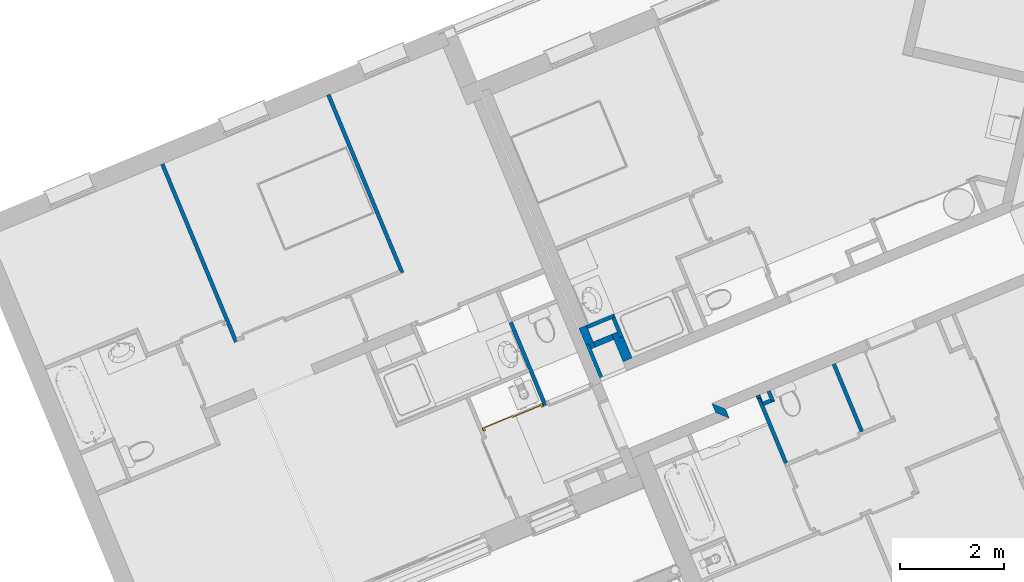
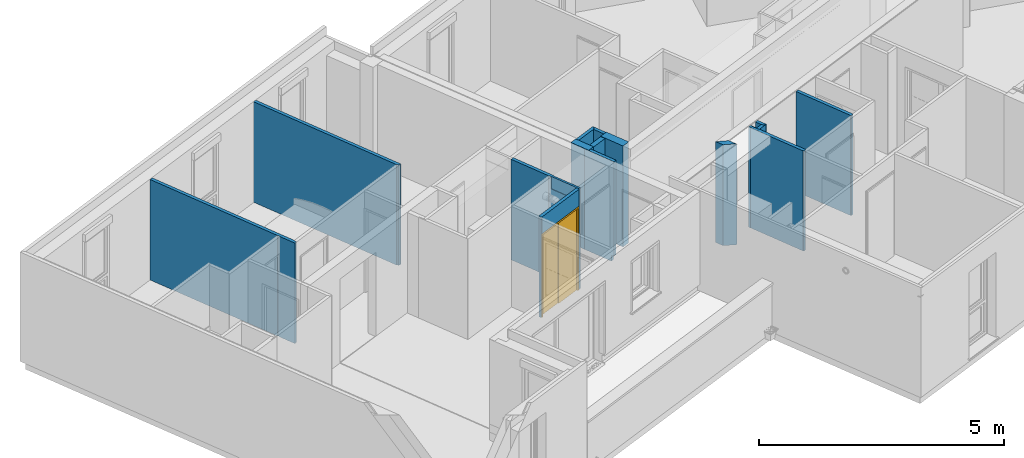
# One storey, part 37 of 91: 16 walls, 1 door, 1 opening.
"""IFC2X3 building model written with IfcOpenShell, lengths in metres."""

from ifc_helpers import new_model, entity, si_unit, converted_unit, derived_unit, money_unit, direction, frame, origin_with_axes, place, context, subcontext, project, spatial, faceted_brep, material, material_list, type_object, element, fill, save


model = new_model("IFC2X3")

# Units and contexts
model_context = context("Model", 3, precision=1e-05, world=origin_with_axes(), true_north=direction((0.0, 1.0)))
body_context = subcontext(model_context, "Body", "Model", "MODEL_VIEW")
ifc_project = project(units=[si_unit("LENGTHUNIT", "METRE"), si_unit("AREAUNIT", "SQUARE_METRE"), si_unit("VOLUMEUNIT", "CUBIC_METRE"), converted_unit("PLANEANGLEUNIT", "DEGREE", entity("IfcPlaneAngleMeasure", 0.0174532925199), si_unit("PLANEANGLEUNIT", "RADIAN"), dimensions=[0, 0, 0, 0, 0, 0, 0]), si_unit("SOLIDANGLEUNIT", "STERADIAN"), money_unit("EUR"), converted_unit("TIMEUNIT", "Year", entity("IfcTimeMeasure", 31556926.0), si_unit("TIMEUNIT", "SECOND"), dimensions=[0, 0, 1, 0, 0, 0, 0]), si_unit("MASSUNIT", "GRAM", prefix="KILO"), si_unit("THERMODYNAMICTEMPERATUREUNIT", "DEGREE_CELSIUS"), si_unit("LUMINOUSINTENSITYUNIT", "LUMEN"), si_unit("ENERGYUNIT", "JOULE", prefix="MEGA"), derived_unit("THERMALCONDUCTANCEUNIT", [(si_unit("POWERUNIT", "WATT"), 1), (si_unit("LENGTHUNIT", "METRE"), -1), (si_unit("THERMODYNAMICTEMPERATUREUNIT", "KELVIN"), -1)]), derived_unit("SPECIFICHEATCAPACITYUNIT", [(si_unit("ENERGYUNIT", "JOULE"), 1), (si_unit("MASSUNIT", "GRAM", prefix="KILO"), -1), (si_unit("THERMODYNAMICTEMPERATUREUNIT", "KELVIN"), -1)]), derived_unit("MASSDENSITYUNIT", [(si_unit("MASSUNIT", "GRAM", prefix="KILO"), 1), (si_unit("VOLUMEUNIT", "CUBIC_METRE"), -1)])], contexts=[model_context])

# Site, building, storey
site_placement = place(None, origin_with_axes())
site = spatial("IfcSite", under=ifc_project, at=site_placement, Name="Site", CompositionType="ELEMENT")
building_placement = place(site_placement, origin_with_axes())
building = spatial("IfcBuilding", under=site, at=building_placement, Name="Bâtiment", CompositionType="ELEMENT")
storey_placement = place(building_placement, frame((0.0, 0.0, 5.44), z_axis=(0.0, 0.0, 1.0), x_axis=(1.0, 0.0, 0.0)))
storey = spatial("IfcBuildingStorey", under=building, at=storey_placement, Name="R+2", CompositionType="ELEMENT", Elevation=5.44)

# Walls
ifc_material_1 = material(Name="Cloison - Carreaux de plâtre")
wall_type_1 = type_object("IfcWallType", Name="Cloison - Carreaux de plâtre 74", PredefinedType="USERDEFINED")
wall_1_placement = place(storey_placement, frame((-23.4020900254, -20.3401454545, 0.0), z_axis=(0.0, 0.0, 1.0), x_axis=(0.38311254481, -0.923701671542, 0.0)))
element("IfcWall", 1, at=wall_1_placement, inside=storey, type_object=wall_type_1, material=ifc_material_1, Name="Carreaux de plâtre 8cm", ObjectType="PARTITIONING", context=body_context, shape_type="Brep", body=[
    faceted_brep([(0.644635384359, 0.064, 2.5), (0.644635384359, -0.01, 2.5), (0.644635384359, -0.00999999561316, 0.15), (0.644635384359, 0.064, 0.15), (-0.111000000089, 0.064, 2.5), (-0.111000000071, -0.01, 2.5), (-0.111000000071, -0.01, 0.0), (0.580635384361, -0.00999999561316, 0.0), (0.580635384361, -0.00999999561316, 0.15), (0.580635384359, 0.0, 0.15), (0.580635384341, 0.064, 0.15), (0.580635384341, 0.064, 0.0), (-0.111000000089, 0.064, 0.0), (0.580635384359, 0.0, 0.0)], [[[0, 1, 2, 3]], [[0, 4, 5, 1]], [[6, 7, 8, 2, 1, 5]], [[8, 9, 10, 3, 2]], [[0, 3, 10, 11, 12, 4]], [[6, 5, 4, 12]], [[12, 11, 13, 7, 6]], [[9, 8, 7, 13]], [[9, 13, 11, 10]]]),
])
ifc_material_2 = material(Name="Finition int - Plaque de plâtre")
ifc_material_3 = material(Name="Isolation - Laine de roche")
ifc_material_list_1 = material_list([ifc_material_2, ifc_material_3, ifc_material_2])
wall_type_2 = type_object("IfcWallType", Name="3 - Cloison 72mm Placostil 74", PredefinedType="USERDEFINED")
wall_2_placement = place(storey_placement, frame((-24.2641360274, -21.4304952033, 0.0), z_axis=(0.0, 0.0, 1.0), x_axis=(-0.383112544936, 0.92370167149, 0.0)))
element("IfcWall", 2, at=wall_2_placement, inside=storey, type_object=wall_type_2, material=ifc_material_list_1, Name="Cloison Placostil 72/48", ObjectType="PARTITIONING", context=body_context, shape_type="Brep", body=[
    faceted_brep([(0.718810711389, -0.013, 2.2), (0.0739999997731, -0.013, 2.2), (0.0739999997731, -0.013, 2.5), (0.0609999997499, -0.013, 2.5), (0.0609999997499, -0.013, 0.0), (0.731810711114, -0.013, 0.0), (0.731810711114, -0.013, 2.5), (0.718810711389, -0.013, 2.5), (0.718810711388, 0.0, 2.2), (0.0739999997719, 0.0, 2.2), (0.0739999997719, 0.0, 2.5), (0.0609999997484, 0.0, 2.5), (0.0609999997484, 0.0, 0.0), (0.731810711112, 0.0, 0.0), (0.731810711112, 0.0, 2.5), (0.718810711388, 0.0, 2.5)], [[[0, 1, 2, 3, 4, 5, 6, 7]], [[1, 0, 8, 9]], [[10, 2, 1, 9]], [[2, 10, 11, 3]], [[12, 4, 3, 11]], [[5, 4, 12, 13]], [[13, 14, 6, 5]], [[15, 7, 6, 14]], [[0, 7, 15, 8]], [[8, 15, 14, 13, 12, 11, 10, 9]]]),
    faceted_brep([(-2.50066634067e-10, -0.013, 0.0), (0.0129999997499, -0.013, 0.0), (0.0129999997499, -0.013, 2.5), (-2.50066634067e-10, -0.013, 2.5), (-2.5164403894e-10, 0.0, 0.0), (0.0129999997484, 0.0, 0.0), (0.0129999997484, 0.0, 2.5), (-2.5164403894e-10, 0.0, 2.5)], [[[0, 1, 2, 3]], [[4, 5, 1, 0]], [[5, 6, 2, 1]], [[3, 2, 6, 7]], [[4, 0, 3, 7]], [[7, 6, 5, 4]]]),
    faceted_brep([(0.779810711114, -0.013, 2.5), (1.74617411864, -0.013, 2.5), (1.74617411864, 0.0, 2.5), (0.779810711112, 0.0, 2.5), (0.779810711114, -0.013, 0.0), (1.74617411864, -0.013, 0.0), (1.74617411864, 0.0, 0.0), (0.779810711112, 0.0, 0.0)], [[[0, 1, 2, 3]], [[4, 5, 1, 0]], [[2, 1, 5, 6]], [[3, 2, 6, 7]], [[4, 0, 3, 7]], [[7, 6, 5, 4]]]),
    faceted_brep([(0.0129999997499, -0.013, 2.5), (0.0129999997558, -0.061, 2.5), (1.74617411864, -0.061, 2.5), (1.74617411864, -0.013, 2.5), (0.0129999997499, -0.013, 0.0), (0.0129999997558, -0.061, 0.0), (1.74617411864, -0.061, 0.0), (1.74617411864, -0.013, 0.0)], [[[0, 1, 2, 3]], [[4, 5, 1, 0]], [[1, 5, 6, 2]], [[7, 3, 2, 6]], [[4, 0, 3, 7]], [[5, 4, 7, 6]]]),
    faceted_brep([(0.718810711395, -0.074, 2.2), (0.0739999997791, -0.074, 2.2), (0.0739999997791, -0.074, 2.5), (0.0609999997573, -0.074, 2.5), (0.0609999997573, -0.074, 0.0), (1.74617411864, -0.074, 0.0), (1.74617411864, -0.074, 2.5), (0.718810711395, -0.074, 2.5), (0.718810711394, -0.061, 2.2), (0.0739999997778, -0.061, 2.2), (0.0739999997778, -0.061, 2.5), (0.0609999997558, -0.061, 2.5), (0.0609999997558, -0.061, 0.0), (1.74617411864, -0.061, 0.0), (1.74617411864, -0.061, 2.5), (0.718810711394, -0.061, 2.5)], [[[0, 1, 2, 3, 4, 5, 6, 7]], [[1, 0, 8, 9]], [[10, 2, 1, 9]], [[2, 10, 11, 3]], [[4, 3, 11, 12]], [[12, 13, 5, 4]], [[14, 6, 5, 13]], [[15, 7, 6, 14]], [[0, 7, 15, 8]], [[8, 15, 14, 13, 12, 11, 10, 9]]]),
])
wall_3_placement = place(storey_placement, frame((-20.0063506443, -21.4094138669, 0.0), z_axis=(0.0, 0.0, 1.0), x_axis=(0.383112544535, -0.923701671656, 0.0)))
element("IfcWall", 3, at=wall_3_placement, inside=storey, type_object=wall_type_2, material=ifc_material_list_1, Name="Cloison Placostil 72/48", ObjectType="PARTITIONING", context=body_context, shape_type="Brep", body=[
    faceted_brep([(0.0, 0.0, 2.49), (1.17600000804, 0.0, 2.49), (1.17600000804, 0.0, 0.0), (0.0, 0.0, 0.0), (1.17600000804, -0.013, 2.49), (0.0, -0.013, 2.49), (1.17600000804, -0.013, 0.0), (0.0, -0.013, 0.0)], [[[0, 1, 2, 3]], [[4, 1, 0, 5]], [[1, 4, 6, 2]], [[6, 7, 3, 2]], [[5, 0, 3, 7]], [[4, 5, 7, 6]]]),
    faceted_brep([(-0.174, -0.013, 2.49), (1.18900000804, -0.013, 2.49), (1.18900000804, -0.013, 0.0), (-0.174, -0.013, 0.0), (1.18900000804, -0.060999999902, 2.49), (-0.174, -0.061, 2.49), (1.18900000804, -0.060999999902, 0.0), (-0.174, -0.061, 0.0)], [[[0, 1, 2, 3]], [[4, 1, 0, 5]], [[1, 4, 6, 2]], [[3, 2, 6, 7]], [[5, 0, 3, 7]], [[4, 5, 7, 6]]]),
    faceted_brep([(-0.174, -0.061, 2.49), (1.17600000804, -0.061, 2.49), (1.17600000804, -0.061, 0.0), (-0.174, -0.061, 0.0), (1.17600000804, -0.0739999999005, 2.49), (-0.174, -0.074, 2.49), (1.17600000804, -0.0739999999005, 0.0), (-0.174, -0.074, 0.0)], [[[0, 1, 2, 3]], [[4, 1, 0, 5]], [[1, 4, 6, 2]], [[3, 2, 6, 7]], [[5, 0, 3, 7]], [[4, 5, 7, 6]]]),
])

# Wall, opening, door
wall_4_placement = place(storey_placement, frame((-24.2641360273, -21.4304952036, 0.0), z_axis=(0.0, 0.0, 1.0), x_axis=(-0.923701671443, -0.383112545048, 0.0)))
wall_4 = element("IfcWall", 4, at=wall_4_placement, inside=storey, type_object=wall_type_2, material=ifc_material_list_1, Name="Cloison Placostil 72/48", ObjectType="PARTITIONING", context=body_context, shape_type="Brep", body=[
    faceted_brep([(1.24999999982, 0.0, 2.08), (0.0, 0.0, 2.08), (0.0, 0.0, 2.5), (1.24999999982, 0.0, 2.5), (0.0, -0.013, 2.08), (1.24999999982, -0.013, 2.08), (0.0, -0.013, 2.5), (1.24999999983, -0.013, 2.5)], [[[0, 1, 2, 3]], [[4, 1, 0, 5]], [[1, 4, 6, 2]], [[2, 6, 7, 3]], [[5, 0, 3, 7]], [[4, 5, 7, 6]]]),
    faceted_brep([(1.24999999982, -0.013, 0.0), (1.24999999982, -0.013, 2.08), (0.0, -0.013, 2.08), (0.0, -0.013, 0.0), (-0.0130000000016, -0.013, 0.0), (-0.0130000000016, -0.013, 2.5), (1.26299999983, -0.013, 2.5), (1.26299999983, -0.013, 0.0), (1.24999999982, -0.061, 0.0), (1.24999999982, -0.061, 2.08), (0.0, -0.061, 2.08), (0.0, -0.061, 0.0), (-0.0130000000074, -0.061, 0.0), (-0.0130000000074, -0.061, 2.5), (1.26299999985, -0.061, 2.5), (1.26299999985, -0.061, 0.0)], [[[0, 1, 2, 3, 4, 5, 6, 7]], [[1, 0, 8, 9]], [[2, 1, 9, 10]], [[3, 2, 10, 11]], [[3, 11, 12, 4]], [[13, 5, 4, 12]], [[5, 13, 14, 6]], [[7, 6, 14, 15]], [[8, 0, 7, 15]], [[9, 8, 15, 14, 13, 12, 11, 10]]]),
    faceted_brep([(1.24999999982, -0.061, 2.08), (0.0, -0.061, 2.08), (0.0, -0.061, 2.5), (1.24999999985, -0.061, 2.5), (0.0, -0.074, 2.08), (1.24999999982, -0.074, 2.08), (0.0, -0.074, 2.5), (1.24999999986, -0.074, 2.5)], [[[0, 1, 2, 3]], [[4, 1, 0, 5]], [[1, 4, 6, 2]], [[2, 6, 7, 3]], [[5, 0, 3, 7]], [[4, 5, 7, 6]]]),
])
opening_placement = place(wall_4_placement, frame((0.62499999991, 0.0, 0.0), z_axis=(0.0, 0.0, 1.0), x_axis=(1.0, 0.0, 0.0)))
opening = element("IfcOpeningElement", 5, at=opening_placement, cuts=wall_4, Name="Por-002", context=body_context, shape_type="Brep", body=[
    faceted_brep([(0.62499999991, -0.074, 0.0), (-0.62499999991, -0.074, 0.0), (-0.62499999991, 0.074, 0.0), (0.62499999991, 0.074, 0.0), (0.62499999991, -0.074, 2.08), (-0.62499999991, -0.074, 2.08), (-0.62499999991, 0.074, 2.08), (0.62499999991, 0.074, 2.08)], [[[0, 1, 2, 3]], [[0, 4, 5, 1]], [[1, 5, 6, 2]], [[3, 2, 6, 7]], [[4, 0, 3, 7]], [[5, 4, 7, 6]]]),
])
door_style = type_object("IfcDoorStyle", Name="Porte int générique 2019", ConstructionType="NOTDEFINED", OperationType="USERDEFINED", ParameterTakesPrecedence=False, Sizeable=False)
door_placement = place(opening_placement, frame((0.58499999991, 0.0, 0.0), z_axis=(0.0, 0.0, 1.0), x_axis=(-1.0, 0.0, 0.0)))
door = element("IfcDoor", 6, at=door_placement, inside=storey, type_object=door_style, Name="Por-002", ObjectType="DOOR", OverallHeight=2.04, OverallWidth=1.17, context=body_context, shape_type="Brep", body=[
    faceted_brep([(-0.04, 0.074, 0.0), (-0.04, 0.074, 2.08), (1.20999999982, 0.074, 2.08), (1.20999999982, 0.074, 0.0), (1.16999999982, 0.074, 0.0), (1.16999999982, 0.074, 2.04), (0.0, 0.074, 2.04), (0.0, 0.074, 0.0), (-0.04, 0.0, 0.0), (-0.04, 0.0, 2.08), (1.20999999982, 0.0, 2.08), (1.20999999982, 0.0, 0.0), (1.16999999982, 0.0, 0.0), (1.16999999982, 0.0, 2.04), (0.0, 0.0, 2.04), (0.0, 0.0, 0.0)], [[[0, 1, 2, 3, 4, 5, 6, 7]], [[8, 9, 1, 0]], [[9, 10, 2, 1]], [[10, 11, 3, 2]], [[3, 11, 12, 4]], [[5, 4, 12, 13]], [[6, 5, 13, 14]], [[7, 6, 14, 15]], [[0, 7, 15, 8]], [[15, 14, 13, 12, 11, 10, 9, 8]]]),
    faceted_brep([(0.0, 0.074, 0.0), (0.59999999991, 0.074, 0.0), (0.59999999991, 0.054, 0.0), (0.0, 0.054, 0.0), (0.0, 0.074, 2.04), (0.59999999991, 0.074, 2.04), (0.59999999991, 0.054, 2.04), (0.0, 0.054, 2.04)], [[[0, 1, 2, 3]], [[0, 4, 5, 1]], [[1, 5, 6, 2]], [[3, 2, 6, 7]], [[4, 0, 3, 7]], [[5, 4, 7, 6]]]),
    faceted_brep([(0.56999999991, 0.054, 0.0), (1.16999999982, 0.054, 0.0), (1.16999999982, 0.034, 0.0), (0.56999999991, 0.034, 0.0), (0.56999999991, 0.054, 2.04), (1.16999999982, 0.054, 2.04), (1.16999999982, 0.034, 2.04), (0.56999999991, 0.034, 2.04)], [[[0, 1, 2, 3]], [[0, 4, 5, 1]], [[1, 5, 6, 2]], [[3, 2, 6, 7]], [[4, 0, 3, 7]], [[5, 4, 7, 6]]]),
])
fill(opening, door)

# Walls
wall_5_placement = place(storey_placement, frame((-31.5930386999, -16.7328686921, 0.0), z_axis=(0.0, 0.0, 1.0), x_axis=(0.383112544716, -0.923701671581, 0.0)))
element("IfcWall", 7, at=wall_5_placement, inside=storey, type_object=wall_type_2, material=ifc_material_list_1, Name="Cloison Placostil 72/48", ObjectType="PARTITIONING", context=body_context, shape_type="Brep", body=[
    faceted_brep([(3.66082590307, -0.013, 2.5), (3.66082590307, 0.0, 2.5), (0.0, 0.0, 2.5), (0.0, -0.013, 2.5), (3.66082590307, -0.013, 0.0), (3.66082590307, 0.0, 0.0), (0.0, 0.0, 0.0), (0.0, -0.013, 0.0)], [[[0, 1, 2, 3]], [[1, 0, 4, 5]], [[1, 5, 6, 2]], [[7, 3, 2, 6]], [[4, 0, 3, 7]], [[5, 4, 7, 6]]]),
    faceted_brep([(3.70882590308, -0.061, 2.5), (3.70882590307, -0.013, 2.5), (0.0, -0.013, 2.5), (0.0, -0.061, 2.5), (3.70882590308, -0.061, 0.0), (3.70882590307, -0.013, 0.0), (0.0, -0.013, 0.0), (0.0, -0.061, 0.0)], [[[0, 1, 2, 3]], [[1, 0, 4, 5]], [[1, 5, 6, 2]], [[7, 3, 2, 6]], [[4, 0, 3, 7]], [[5, 4, 7, 6]]]),
    faceted_brep([(3.27404016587, -0.074, 2.5), (3.27404016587, -0.061, 2.5), (0.0, -0.061, 2.5), (0.0, -0.074, 2.5), (3.27404016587, -0.074, 0.0), (3.27404016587, -0.061, 0.0), (0.0, -0.061, 0.0), (0.0, -0.074, 0.0)], [[[0, 1, 2, 3]], [[1, 0, 4, 5]], [[1, 5, 6, 2]], [[7, 3, 2, 6]], [[4, 0, 3, 7]], [[5, 4, 7, 6]]]),
    faceted_brep([(3.72182590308, -0.074, 2.5), (3.72182590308, -0.061, 2.5), (3.32204016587, -0.061, 2.5), (3.32204016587, -0.074, 2.5), (3.72182590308, -0.074, 0.0), (3.72182590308, -0.061, 0.0), (3.32204016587, -0.061, 0.0), (3.32204016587, -0.074, 0.0)], [[[0, 1, 2, 3]], [[1, 0, 4, 5]], [[1, 5, 6, 2]], [[7, 3, 2, 6]], [[4, 0, 3, 7]], [[5, 4, 7, 6]]]),
])
wall_6_placement = place(storey_placement, frame((-28.456284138, -15.4210490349, 0.0), z_axis=(0.0, 0.0, 1.0), x_axis=(0.383112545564, -0.923701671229, 0.0)))
element("IfcWall", 8, at=wall_6_placement, inside=storey, type_object=wall_type_2, material=ifc_material_list_1, Name="Cloison Placostil 72/48", ObjectType="PARTITIONING", context=body_context, shape_type="Brep", body=[
    faceted_brep([(3.73182589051, 0.074, 0.0), (3.7318258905, 0.061, 0.0), (0.0, 0.061, 0.0), (0.0, 0.074, 0.0), (3.73182589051, 0.074, 2.5), (3.7318258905, 0.061, 2.5), (0.0, 0.061, 2.5), (0.0, 0.074, 2.5)], [[[0, 1, 2, 3]], [[1, 0, 4, 5]], [[1, 5, 6, 2]], [[7, 3, 2, 6]], [[4, 0, 3, 7]], [[5, 4, 7, 6]]]),
    faceted_brep([(3.7188258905, 0.061, 0.0), (3.71882589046, 0.013, 0.0), (0.0, 0.013, 0.0), (0.0, 0.061, 0.0), (3.7188258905, 0.061, 2.5), (3.71882589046, 0.013, 2.5), (0.0, 0.013, 2.5), (0.0, 0.061, 2.5)], [[[0, 1, 2, 3]], [[1, 0, 4, 5]], [[1, 5, 6, 2]], [[7, 3, 2, 6]], [[4, 0, 3, 7]], [[5, 4, 7, 6]]]),
    faceted_brep([(3.67082589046, 0.013, 0.0), (3.67082589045, 0.0, 0.0), (0.0, 0.0, 0.0), (0.0, 0.013, 0.0), (3.67082589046, 0.013, 2.5), (3.67082589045, 0.0, 2.5), (0.0, 0.0, 2.5), (0.0, 0.013, 2.5)], [[[0, 1, 2, 3]], [[1, 0, 4, 5]], [[1, 5, 6, 2]], [[7, 3, 2, 6]], [[4, 0, 3, 7]], [[5, 4, 7, 6]]]),
])
wall_7_placement = place(storey_placement, frame((-18.0615454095, -21.9560413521, 0.0), z_axis=(0.0, 0.0, 1.0), x_axis=(-0.383112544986, 0.923701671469, 0.0)))
element("IfcWall", 9, at=wall_7_placement, inside=storey, type_object=wall_type_2, material=ifc_material_list_1, Name="Cloison Placostil 72/48", ObjectType="PARTITIONING", context=body_context, shape_type="Brep", body=[
    faceted_brep([(1.47400000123, 0.061, 2.49), (0.0739999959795, 0.061, 2.49), (0.0739999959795, 0.061, 0.0), (1.47400000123, 0.061, 0.0), (0.0739999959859, 0.074, 2.49), (1.47400000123, 0.074, 2.49), (0.0739999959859, 0.074, 0.0), (1.47400000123, 0.074, 0.0)], [[[0, 1, 2, 3]], [[4, 1, 0, 5]], [[1, 4, 6, 2]], [[6, 7, 3, 2]], [[5, 0, 3, 7]], [[4, 5, 7, 6]]]),
    faceted_brep([(1.47400000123, 0.013, 2.49), (0.0609999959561, 0.013, 2.49), (0.0609999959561, 0.013, 0.0), (1.47400000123, 0.013, 0.0), (0.0609999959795, 0.061, 2.49), (1.47400000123, 0.061, 2.49), (0.0609999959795, 0.061, 0.0), (1.47400000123, 0.061, 0.0)], [[[0, 1, 2, 3]], [[4, 1, 0, 5]], [[1, 4, 6, 2]], [[6, 7, 3, 2]], [[5, 0, 3, 7]], [[4, 5, 7, 6]]]),
    faceted_brep([(1.47400000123, 0.0, 2.49), (0.0739999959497, 0.0, 2.49), (0.0739999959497, 0.0, 0.0), (1.47400000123, 0.0, 0.0), (0.0739999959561, 0.013, 2.49), (1.47400000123, 0.013, 2.49), (0.0739999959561, 0.013, 0.0), (1.47400000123, 0.013, 0.0)], [[[0, 1, 2, 3]], [[4, 1, 0, 5]], [[1, 4, 6, 2]], [[6, 7, 3, 2]], [[5, 0, 3, 7]], [[4, 5, 7, 6]]]),
])
ifc_material_4 = material(Name="Finition int - Enduit plâtre")
ifc_material_5 = material(Name="Béton")
ifc_material_list_2 = material_list([ifc_material_4, ifc_material_5, ifc_material_4])
wall_type_3 = type_object("IfcWallType", Name="2 - Murs Béton 18 + Enduit 2 Faces 200", PredefinedType="USERDEFINED")
wall_8_placement = place(storey_placement, frame((-20.9299652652, -21.5499877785, 0.0), z_axis=(0.0, 0.0, 1.0), x_axis=(-0.38311254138, 0.923701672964, 0.0)))
element("IfcWall", 10, at=wall_8_placement, inside=storey, type_object=wall_type_3, material=ifc_material_list_2, Name="M_Ext-008", ObjectType="SOLIDWALL", context=body_context, shape_type="Brep", body=[
    faceted_brep([(0.0, 0.0, 0.0), (0.190000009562, 0.0, 0.0), (0.190000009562, 0.0, 2.51), (0.0, 0.0, 2.51), (0.200000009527, 0.00999999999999, 0.0), (0.0100000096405, 0.0100000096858, 0.0), (0.200000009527, 0.0100000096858, 2.51), (0.0100000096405, 0.0100000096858, 2.51)], [[[0, 1, 2, 3]], [[4, 1, 0, 5]], [[4, 6, 2, 1]], [[3, 2, 6, 7]], [[5, 0, 3, 7]], [[4, 5, 7, 6]]]),
    faceted_brep([(-0.179999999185, -0.18, 0.0), (0.0100000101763, -0.18, 0.0), (0.0100000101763, -0.18, 2.51), (-0.179999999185, -0.18, 2.51), (0.0, 0.0, 0.0), (0.190000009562, 0.0, 0.0), (0.190000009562, 0.0, 2.51), (0.0, 0.0, 2.51)], [[[0, 1, 2, 3]], [[4, 5, 1, 0]], [[5, 6, 2, 1]], [[3, 2, 6, 7]], [[4, 0, 3, 7]], [[7, 6, 5, 4]]]),
    faceted_brep([(1.0210484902e-08, -0.19, 2.49), (-0.18999999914, -0.19, 2.49), (-0.18999999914, -0.19, 0.0), (1.0210484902e-08, -0.19, 0.0), (-0.180000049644, -0.17999996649, 2.49), (0.00997409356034, -0.180025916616, 2.49), (-0.179999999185, -0.18, 0.0), (0.0100000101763, -0.18, 0.0), (0.0100000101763, -0.18, 2.51), (0.00997409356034, -0.180025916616, 2.51), (-0.180000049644, -0.17999996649, 2.51)], [[[0, 1, 2, 3]], [[4, 1, 0, 5]], [[1, 4, 6, 2]], [[6, 7, 3, 2]], [[5, 0, 3, 7, 8, 9]], [[9, 10, 4, 5]], [[4, 10, 8, 7, 6]], [[10, 9, 8]]]),
])
wall_type_4 = type_object("IfcWallType", Name="3 - Cloison Gaine Technique 72mm 74", PredefinedType="USERDEFINED")
wall_9_placement = place(storey_placement, frame((-19.7994086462, -21.323583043, 0.0), z_axis=(0.0, 0.0, 1.0), x_axis=(-0.923701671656, -0.383112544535, 0.0)))
element("IfcWall", 11, at=wall_9_placement, inside=storey, type_object=wall_type_4, material=ifc_material_list_1, Name="Cloison Placostil 72/48", ObjectType="PARTITIONING", context=body_context, shape_type="Brep", body=[
    faceted_brep([(0.013, -0.013, 2.49), (0.013, 0.0, 2.49), (0.013, 0.0, 0.0), (0.013, -0.013, 0.0), (0.237035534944, 0.0, 2.49), (0.237035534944, -0.013, 2.49), (0.237035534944, 0.0, 0.0), (0.237035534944, -0.013, 0.0)], [[[0, 1, 2, 3]], [[4, 1, 0, 5]], [[1, 4, 6, 2]], [[2, 6, 7, 3]], [[5, 0, 3, 7]], [[4, 5, 7, 6]]]),
    faceted_brep([(0.061, -0.061, 2.49), (0.061, -0.013, 2.49), (0.061, -0.013, 0.0), (0.061, -0.061, 0.0), (0.237035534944, -0.013, 2.49), (0.237035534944, -0.061, 2.49), (0.237035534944, -0.013, 0.0), (0.237035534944, -0.061, 0.0)], [[[0, 1, 2, 3]], [[4, 1, 0, 5]], [[1, 4, 6, 2]], [[2, 6, 7, 3]], [[5, 0, 3, 7]], [[4, 5, 7, 6]]]),
    faceted_brep([(0.074, -0.074, 2.49), (0.074, -0.061, 2.49), (0.074, -0.061, 0.0), (0.074, -0.074, 0.0), (0.224035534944, -0.061, 2.49), (0.224035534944, -0.074, 2.49), (0.224035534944, -0.061, 0.0), (0.224035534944, -0.074, 0.0)], [[[0, 1, 2, 3]], [[4, 1, 0, 5]], [[1, 4, 6, 2]], [[2, 6, 7, 3]], [[5, 0, 3, 7]], [[4, 5, 7, 6]]]),
])
wall_10_placement = place(storey_placement, frame((-23.5869322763, -19.9205844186, 0.0), z_axis=(0.0, 0.0, 1.0), x_axis=(0.923701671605, 0.383112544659, 0.0)))
element("IfcWall", 12, at=wall_10_placement, inside=storey, type_object=wall_type_4, material=ifc_material_list_1, Name="Cloison Placostil 72/48", ObjectType="PARTITIONING", context=body_context, shape_type="Brep", body=[
    faceted_brep([(0.735366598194, 0.0, 2.5), (0.16, -2.14747331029e-10, 2.5), (0.160000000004, -0.013, 2.5), (0.735366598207, -0.013, 2.5), (0.735366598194, 0.0, 0.0), (0.16, -2.14747331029e-10, 0.0), (0.160000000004, -0.013, 0.0), (0.735366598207, -0.013, 0.0)], [[[0, 1, 2, 3]], [[4, 5, 1, 0]], [[5, 6, 2, 1]], [[3, 2, 6, 7]], [[4, 0, 3, 7]], [[7, 6, 5, 4]]]),
    faceted_brep([(0.722366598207, -0.013, 2.5), (0.160000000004, -0.013, 2.5), (0.16000000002, -0.061, 2.5), (0.722366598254, -0.061, 2.5), (0.722366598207, -0.013, 0.0), (0.160000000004, -0.013, 0.0), (0.16000000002, -0.061, 0.0), (0.722366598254, -0.061, 0.0)], [[[0, 1, 2, 3]], [[4, 5, 1, 0]], [[5, 6, 2, 1]], [[3, 2, 6, 7]], [[4, 0, 3, 7]], [[7, 6, 5, 4]]]),
    faceted_brep([(0.674366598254, -0.061, 2.5), (0.16000000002, -0.061, 2.5), (0.160000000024, -0.074, 2.5), (0.674366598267, -0.074, 2.5), (0.674366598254, -0.061, 0.0), (0.16000000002, -0.061, 0.0), (0.160000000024, -0.074, 0.0), (0.674366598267, -0.074, 0.0)], [[[0, 1, 2, 3]], [[4, 5, 1, 0]], [[5, 6, 2, 1]], [[3, 2, 6, 7]], [[4, 0, 3, 7]], [[7, 6, 5, 4]]]),
])
wall_11_placement = place(storey_placement, frame((-20.0921678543, -21.2025046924, 0.0), z_axis=(0.0, 0.0, 1.0), x_axis=(0.383112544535, -0.923701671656, 0.0)))
element("IfcWall", 13, at=wall_11_placement, inside=storey, type_object=wall_type_4, material=ifc_material_list_1, Name="Cloison Placostil 72/48", ObjectType="PARTITIONING", context=body_context, shape_type="Brep", body=[
    faceted_brep([(0.0, 0.0, 2.49), (0.163, 0.0, 2.49), (0.163, 0.0, 0.0), (0.0, 0.0, 0.0), (0.163, -0.013, 2.49), (0.0, -0.013, 2.49), (0.163, -0.013, 0.0), (0.0, -0.013, 0.0)], [[[0, 1, 2, 3]], [[4, 1, 0, 5]], [[1, 4, 6, 2]], [[3, 2, 6, 7]], [[5, 0, 3, 7]], [[4, 5, 7, 6]]]),
    faceted_brep([(0.0, -0.013, 2.49), (0.05, -0.013, 2.49), (0.05, -0.013, 0.0), (0.0, -0.013, 0.0), (0.05, -0.061, 2.49), (0.0, -0.061, 2.49), (0.05, -0.061, 0.0), (0.0, -0.061, 0.0)], [[[0, 1, 2, 3]], [[4, 1, 0, 5]], [[1, 4, 6, 2]], [[3, 2, 6, 7]], [[5, 0, 3, 7]], [[4, 5, 7, 6]]]),
    faceted_brep([(0.0, -0.061, 2.49), (0.05, -0.061, 2.49), (0.05, -0.061, 0.0), (0.0, -0.061, 0.0), (0.05, -0.074, 2.49), (0.0, -0.074, 2.49), (0.05, -0.074, 0.0), (0.0, -0.074, 0.0)], [[[0, 1, 2, 3]], [[4, 1, 0, 5]], [[1, 4, 6, 2]], [[3, 2, 6, 7]], [[5, 0, 3, 7]], [[4, 5, 7, 6]]]),
])
wall_12_placement = place(storey_placement, frame((-19.8852258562, -21.1166738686, 0.0), z_axis=(0.0, 0.0, 1.0), x_axis=(0.383112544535, -0.923701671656, 0.0)))
element("IfcWall", 14, at=wall_12_placement, inside=storey, type_object=wall_type_4, material=ifc_material_list_1, Name="Cloison Placostil 72/48", ObjectType="PARTITIONING", context=body_context, shape_type="Brep", body=[
    faceted_brep([(0.0, 0.0, 2.49), (0.224, 0.0, 2.49), (0.224, 0.0, 0.0), (0.0, 0.0, 0.0), (0.224, -0.013, 2.49), (0.0, -0.013, 2.49), (0.224, -0.013, 0.0), (0.0, -0.013, 0.0)], [[[0, 1, 2, 3]], [[4, 1, 0, 5]], [[1, 4, 6, 2]], [[2, 6, 7, 3]], [[5, 0, 3, 7]], [[4, 5, 7, 6]]]),
    faceted_brep([(0.0, -0.013, 2.49), (0.211, -0.013, 2.49), (0.211, -0.013, 0.0), (0.0, -0.013, 0.0), (0.211, -0.061, 2.49), (0.0, -0.061, 2.49), (0.211, -0.061, 0.0), (0.0, -0.061, 0.0)], [[[0, 1, 2, 3]], [[4, 1, 0, 5]], [[1, 4, 6, 2]], [[2, 6, 7, 3]], [[5, 0, 3, 7]], [[4, 5, 7, 6]]]),
    faceted_brep([(0.0, -0.061, 2.49), (0.163, -0.061, 2.49), (0.163, -0.061, 0.0), (0.0, -0.061, 0.0), (0.163, -0.074, 2.49), (0.0, -0.074, 2.49), (0.163, -0.074, 0.0), (0.0, -0.074, 0.0)], [[[0, 1, 2, 3]], [[4, 1, 0, 5]], [[1, 4, 6, 2]], [[2, 6, 7, 3]], [[5, 0, 3, 7]], [[4, 5, 7, 6]]]),
])
wall_13_placement = place(storey_placement, frame((-22.9076729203, -19.6388562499, 0.0), z_axis=(0.0, 0.0, 1.0), x_axis=(0.383112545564, -0.923701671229, 0.0)))
element("IfcWall", 15, at=wall_13_placement, inside=storey, type_object=wall_type_4, material=ifc_material_list_1, Name="Cloison Placostil 72/48", ObjectType="PARTITIONING", context=body_context, shape_type="Brep", body=[
    faceted_brep([(0.0129999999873, -0.013, 2.5), (0.472999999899, -0.013, 2.5), (0.472999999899, 0.0, 2.5), (0.013, 0.0, 2.5), (0.0129999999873, -0.013, 0.0), (0.472999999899, -0.013, 0.0), (0.472999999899, 0.0, 0.0), (0.013, 0.0, 0.0)], [[[0, 1, 2, 3]], [[4, 5, 1, 0]], [[2, 1, 5, 6]], [[3, 2, 6, 7]], [[4, 0, 3, 7]], [[7, 6, 5, 4]]]),
    faceted_brep([(0.0609999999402, -0.061, 2.5), (0.472999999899, -0.061, 2.5), (0.472999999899, -0.013, 2.5), (0.0609999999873, -0.013, 2.5), (0.0609999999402, -0.061, 0.0), (0.472999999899, -0.061, 0.0), (0.472999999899, -0.013, 0.0), (0.0609999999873, -0.013, 0.0)], [[[0, 1, 2, 3]], [[4, 5, 1, 0]], [[2, 1, 5, 6]], [[3, 2, 6, 7]], [[4, 0, 3, 7]], [[7, 6, 5, 4]]]),
    faceted_brep([(0.0739999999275, -0.074, 2.5), (0.472999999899, -0.074, 2.5), (0.472999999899, -0.061, 2.5), (0.0739999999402, -0.061, 2.5), (0.0739999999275, -0.074, 0.0), (0.472999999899, -0.074, 0.0), (0.472999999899, -0.061, 0.0), (0.0739999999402, -0.061, 0.0)], [[[0, 1, 2, 3]], [[4, 5, 1, 0]], [[2, 1, 5, 6]], [[3, 2, 6, 7]], [[4, 0, 3, 7]], [[7, 6, 5, 4]]]),
])
ifc_material_list_3 = material_list([ifc_material_4, ifc_material_5])
wall_type_5 = type_object("IfcWallType", Name="2 - Murs Béton 18 + Enduit 1 Face 190", PredefinedType="USERDEFINED")
wall_14_placement = place(storey_placement, frame((-22.9500964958, -20.0325089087, 0.0), z_axis=(0.0, 0.0, 1.0), x_axis=(0.38311254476, -0.923701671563, 0.0)))
element("IfcWall", 16, at=wall_14_placement, inside=storey, type_object=wall_type_5, material=ifc_material_list_3, Name="M_Ext-008", ObjectType="SOLIDWALL", context=body_context, shape_type="Brep", body=[
    faceted_brep([(0.565635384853, 0.18, 2.50999999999), (0.565635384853, 0.18, 0.0), (0.56563538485, 0.19, 0.0), (0.56563538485, 0.19, 2.50999999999), (0.0, 0.18, 0.0), (0.0, 0.18, 2.51), (0.0, 0.19, 0.0), (0.0, 0.19, 2.51)], [[[0, 1, 2, 3]], [[4, 1, 0, 5]], [[6, 2, 1, 4]], [[3, 2, 6, 7]], [[5, 0, 3, 7]], [[4, 5, 7, 6]]]),
    faceted_brep([(0.575635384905, 0.0, 2.51), (0.575635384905, 0.0, 0.0), (0.575635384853, 0.18, 0.0), (0.575635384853, 0.18, 2.50999999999), (0.0, 0.0, 0.0), (0.0, 0.0, 2.51), (0.0, 0.18, 0.0), (0.0, 0.18, 2.51)], [[[0, 1, 2, 3]], [[4, 1, 0, 5]], [[6, 2, 1, 4]], [[3, 2, 6, 7]], [[5, 0, 3, 7]], [[4, 5, 7, 6]]]),
])
ifc_material_6 = material(Name="Finition int - Plaque type PROMAT 5cm")
ifc_material_list_4 = material_list([ifc_material_2, ifc_material_3, ifc_material_6])
wall_type_6 = type_object("IfcWallType", Name="3 - Cloison CF 2H PROMAT 111", PredefinedType="USERDEFINED")
wall_15_placement = place(storey_placement, frame((-23.4113270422, -20.3439765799, 0.0), z_axis=(0.0, 0.0, 1.0), x_axis=(0.923701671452, 0.383112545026, 0.0)))
element("IfcWall", 17, at=wall_15_placement, inside=storey, type_object=wall_type_6, material=ifc_material_list_4, Name="Cloison CF Promat 5cm", ObjectType="PARTITIONING", context=body_context, shape_type="Brep", body=[
    faceted_brep([(0.545366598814, 0.111, 0.0), (0.54536659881, 0.098, 0.0), (0.160000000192, 0.098, 0.0), (0.160000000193, 0.111, 0.0), (0.545366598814, 0.111, 2.5), (0.54536659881, 0.098, 2.5), (0.160000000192, 0.098, 2.5), (0.160000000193, 0.111, 2.5)], [[[0, 1, 2, 3]], [[1, 0, 4, 5]], [[1, 5, 6, 2]], [[7, 3, 2, 6]], [[4, 0, 3, 7]], [[5, 4, 7, 6]]]),
    faceted_brep([(0.54536659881, 0.098, 0.0), (0.545366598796, 0.05, 0.0), (0.160000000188, 0.05, 0.0), (0.160000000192, 0.098, 0.0), (0.54536659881, 0.098, 2.5), (0.545366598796, 0.05, 2.5), (0.160000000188, 0.05, 2.5), (0.160000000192, 0.098, 2.5)], [[[0, 1, 2, 3]], [[1, 0, 4, 5]], [[1, 5, 6, 2]], [[7, 3, 2, 6]], [[4, 0, 3, 7]], [[5, 4, 7, 6]]]),
    faceted_brep([(0.545366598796, 0.05, 0.0), (0.545366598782, 0.0, 0.0), (0.160000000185, 0.0, 0.0), (0.160000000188, 0.05, 0.0), (0.545366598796, 0.05, 2.5), (0.545366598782, 0.0, 2.5), (0.160000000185, 0.0, 2.5), (0.160000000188, 0.05, 2.5)], [[[0, 1, 2, 3]], [[1, 0, 4, 5]], [[1, 5, 6, 2]], [[7, 3, 2, 6]], [[4, 0, 3, 7]], [[5, 4, 7, 6]]]),
])
wall_type_7 = type_object("IfcWallType", Name="Béton 160", PredefinedType="USERDEFINED")
wall_16_placement = place(storey_placement, frame((-23.5869322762, -19.9205844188, 0.0), z_axis=(0.0, 0.0, 1.0), x_axis=(0.38311254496, -0.92370167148, 0.0)))
element("IfcWall", 18, at=wall_16_placement, inside=storey, type_object=wall_type_7, material=ifc_material_5, Name="M_Ext-008", ObjectType="SOLIDWALL", context=body_context, shape_type="Brep", body=[
    faceted_brep([(0.458364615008, 0.16, 2.5), (0.458364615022, 0.16, 2.51), (0.458364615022, 0.0, 2.51), (0.458364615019, 0.0, 2.5), (0.0, 0.16, 0.0), (0.0, 0.16, 2.51), (0.458364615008, 0.16, 0.0), (0.0, 0.0, 2.51), (0.0, 0.0, 0.0), (0.458364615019, 0.0, 0.0)], [[[0, 1, 2, 3]], [[4, 5, 1, 0, 6]], [[1, 5, 7, 2]], [[2, 7, 8, 9, 3]], [[0, 3, 9, 6]], [[4, 8, 7, 5]], [[9, 8, 4, 6]]]),
])

save(model, "model.ifc")
